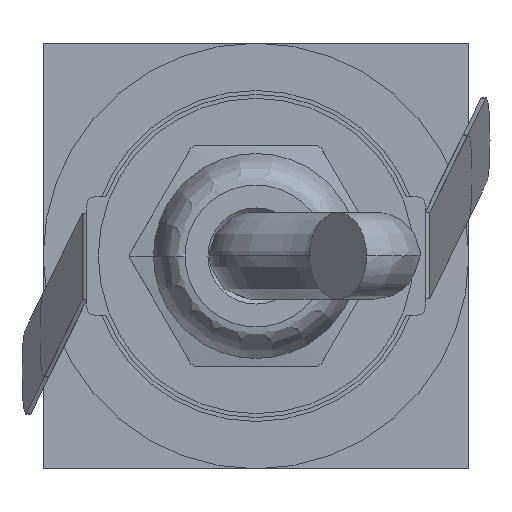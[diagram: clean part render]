
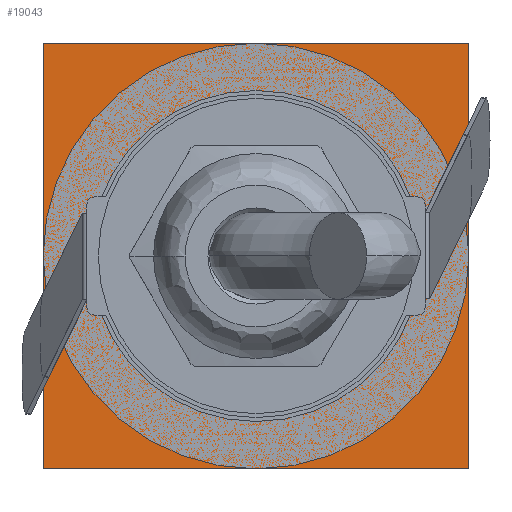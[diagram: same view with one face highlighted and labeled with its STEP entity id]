
A CAD part, front view. The second image highlights one B-rep face of the part: STEP entity #19043.
In plain terms, the highlighted planar face has unit normal (0, -1, 0).
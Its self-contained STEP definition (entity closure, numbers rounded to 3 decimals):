
#17888=DIRECTION('',(0.,0.,-1.));
#17889=VECTOR('',#17888,27.);
#17890=CARTESIAN_POINT('',(-13.5,-1.6,13.5));
#17891=LINE('',#17890,#17889);
#17896=DIRECTION('',(-1.,0.,0.));
#17897=VECTOR('',#17896,27.);
#17898=CARTESIAN_POINT('',(13.5,-1.6,13.5));
#17899=LINE('',#17898,#17897);
#17920=DIRECTION('',(0.,0.,1.));
#17921=VECTOR('',#17920,27.);
#17922=CARTESIAN_POINT('',(13.5,-1.6,-13.5));
#17923=LINE('',#17922,#17921);
#17928=DIRECTION('',(1.,0.,0.));
#17929=VECTOR('',#17928,27.);
#17930=CARTESIAN_POINT('',(-13.5,-1.6,-13.5));
#17931=LINE('',#17930,#17929);
#17936=CARTESIAN_POINT('',(0.,-1.6,0.));
#17937=DIRECTION('',(0.,-1.,0.));
#17938=DIRECTION('',(1.,0.,0.));
#17939=AXIS2_PLACEMENT_3D('',#17936,#17937,#17938);
#17941=CARTESIAN_POINT('',(0.,-1.6,0.));
#17942=DIRECTION('',(0.,-1.,0.));
#17943=DIRECTION('',(-1.,0.,0.));
#17944=AXIS2_PLACEMENT_3D('',#17941,#17942,#17943);
#18866=CARTESIAN_POINT('',(-10.5,-1.6,0.));
#18867=CARTESIAN_POINT('',(10.5,-1.6,0.));
#18868=VERTEX_POINT('',#18866);
#18869=VERTEX_POINT('',#18867);
#18870=CARTESIAN_POINT('',(-13.5,-1.6,13.5));
#18871=CARTESIAN_POINT('',(-13.5,-1.6,-13.5));
#18872=VERTEX_POINT('',#18870);
#18873=VERTEX_POINT('',#18871);
#18874=CARTESIAN_POINT('',(13.5,-1.6,13.5));
#18875=VERTEX_POINT('',#18874);
#18876=CARTESIAN_POINT('',(13.5,-1.6,-13.5));
#18877=VERTEX_POINT('',#18876);
#19026=CARTESIAN_POINT('',(0.,-1.6,0.));
#19027=DIRECTION('',(0.,1.,0.));
#19028=DIRECTION('',(1.,0.,0.));
#19029=AXIS2_PLACEMENT_3D('',#19026,#19027,#19028);
#19030=PLANE('',#19029);
#19031=ORIENTED_EDGE('',*,*,#18951,.F.);
#19032=ORIENTED_EDGE('',*,*,#18967,.F.);
#19033=ORIENTED_EDGE('',*,*,#19007,.F.);
#19034=ORIENTED_EDGE('',*,*,#19020,.F.);
#19035=EDGE_LOOP('',(#19031,#19032,#19033,#19034));
#19036=FACE_OUTER_BOUND('',#19035,.F.);
#19038=ORIENTED_EDGE('',*,*,#19037,.T.);
#19040=ORIENTED_EDGE('',*,*,#19039,.T.);
#19041=EDGE_LOOP('',(#19038,#19040));
#19042=FACE_BOUND('',#19041,.F.);
#19043=ADVANCED_FACE('',(#19036,#19042),#19030,.F.);
#17940=CIRCLE('',#17939,10.5);
#17945=CIRCLE('',#17944,10.5);
#18951=EDGE_CURVE('',#18872,#18873,#17891,.T.);
#18967=EDGE_CURVE('',#18875,#18872,#17899,.T.);
#19007=EDGE_CURVE('',#18877,#18875,#17923,.T.);
#19020=EDGE_CURVE('',#18873,#18877,#17931,.T.);
#19037=EDGE_CURVE('',#18869,#18868,#17940,.T.);
#19039=EDGE_CURVE('',#18868,#18869,#17945,.T.);
